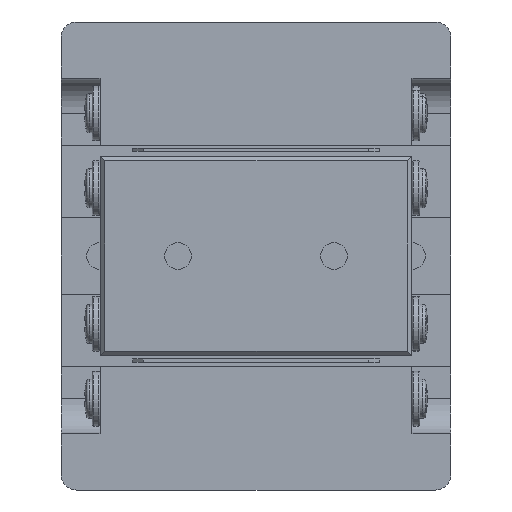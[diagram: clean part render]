
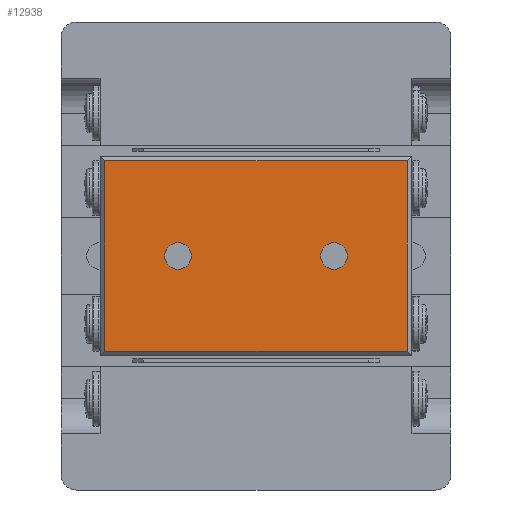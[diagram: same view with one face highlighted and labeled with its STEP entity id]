
A CAD part, front view. The second image highlights one B-rep face of the part: STEP entity #12938.
In plain terms, the highlighted planar face has unit normal (0, -1, 0).
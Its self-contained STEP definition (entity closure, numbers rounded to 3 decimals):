
#209 = VERTEX_POINT ( 'NONE', #20293 ) ;
#494 = DIRECTION ( 'NONE',  ( 0., 0., 1. ) ) ;
#591 = AXIS2_PLACEMENT_3D ( 'NONE', #18216, #6690, #26337 ) ;
#612 = CIRCLE ( 'NONE', #26769, 0.85 ) ;
#1199 = DIRECTION ( 'NONE',  ( 0., 0., -1. ) ) ;
#2118 = ORIENTED_EDGE ( 'NONE', *, *, #4098, .T. ) ;
#2517 = DIRECTION ( 'NONE',  ( 1., 0., 0. ) ) ;
#2547 = DIRECTION ( 'NONE',  ( 0., 0., 1. ) ) ;
#2780 = ORIENTED_EDGE ( 'NONE', *, *, #21110, .T. ) ;
#3473 = EDGE_CURVE ( 'NONE', #24392, #12936, #17196, .T. ) ;
#3593 = VERTEX_POINT ( 'NONE', #31042 ) ;
#3729 = DIRECTION ( 'NONE',  ( 0., 0., 1. ) ) ;
#4098 = EDGE_CURVE ( 'NONE', #26933, #4189, #9251, .T. ) ;
#4189 = VERTEX_POINT ( 'NONE', #29432 ) ;
#4304 = CARTESIAN_POINT ( 'NONE',  ( -5.159, -2.182, -0.85 ) ) ;
#4320 = LINE ( 'NONE', #9170, #22842 ) ;
#4650 = VECTOR ( 'NONE', #2517, 1000. ) ;
#6028 = CARTESIAN_POINT ( 'NONE',  ( -9.859, -2.182, 6.4 ) ) ;
#6186 = CARTESIAN_POINT ( 'NONE',  ( -5.159, -2.182, 0. ) ) ;
#6690 = DIRECTION ( 'NONE',  ( 0., 1., 0. ) ) ;
#6818 = VERTEX_POINT ( 'NONE', #4304 ) ;
#7999 = DIRECTION ( 'NONE',  ( 0., 0., 1. ) ) ;
#8123 = FACE_OUTER_BOUND ( 'NONE', #12701, .T. ) ;
#8642 = DIRECTION ( 'NONE',  ( 0., 0., 1. ) ) ;
#9170 = CARTESIAN_POINT ( 'NONE',  ( -10.159, -2.182, 6.1 ) ) ;
#9251 = LINE ( 'NONE', #6028, #27760 ) ;
#10440 = CARTESIAN_POINT ( 'NONE',  ( -10.159, -2.182, 6.4 ) ) ;
#11079 = CARTESIAN_POINT ( 'NONE',  ( 4.841, -2.182, 0. ) ) ;
#11338 = CARTESIAN_POINT ( 'NONE',  ( -5.159, -2.182, 0. ) ) ;
#11626 = EDGE_LOOP ( 'NONE', ( #24883, #22026 ) ) ;
#12701 = EDGE_LOOP ( 'NONE', ( #21609, #21704, #2118, #18883 ) ) ;
#12936 = VERTEX_POINT ( 'NONE', #17113 ) ;
#12938 = ADVANCED_FACE ( 'NONE', ( #8123, #14534, #21000 ), #13310, .F. ) ;
#13310 = PLANE ( 'NONE',  #19969 ) ;
#14534 = FACE_BOUND ( 'NONE', #14633, .T. ) ;
#14633 = EDGE_LOOP ( 'NONE', ( #2780, #23163 ) ) ;
#14947 = CARTESIAN_POINT ( 'NONE',  ( 9.541, -2.182, 6.4 ) ) ;
#15014 = VECTOR ( 'NONE', #494, 1000. ) ;
#16990 = CARTESIAN_POINT ( 'NONE',  ( -10.159, -2.182, -6.1 ) ) ;
#17113 = CARTESIAN_POINT ( 'NONE',  ( 4.841, -2.182, 0.85 ) ) ;
#17196 = CIRCLE ( 'NONE', #591, 0.85 ) ;
#18216 = CARTESIAN_POINT ( 'NONE',  ( 4.841, -2.182, 0. ) ) ;
#18883 = ORIENTED_EDGE ( 'NONE', *, *, #31381, .T. ) ;
#19969 = AXIS2_PLACEMENT_3D ( 'NONE', #10440, #30322, #3729 ) ;
#20293 = CARTESIAN_POINT ( 'NONE',  ( -5.159, -2.182, 0.85 ) ) ;
#21000 = FACE_BOUND ( 'NONE', #11626, .T. ) ;
#21110 = EDGE_CURVE ( 'NONE', #12936, #24392, #25150, .T. ) ;
#21164 = EDGE_CURVE ( 'NONE', #209, #6818, #612, .T. ) ;
#21609 = ORIENTED_EDGE ( 'NONE', *, *, #28047, .T. ) ;
#21704 = ORIENTED_EDGE ( 'NONE', *, *, #22101, .T. ) ;
#21907 = AXIS2_PLACEMENT_3D ( 'NONE', #11079, #22884, #2547 ) ;
#22026 = ORIENTED_EDGE ( 'NONE', *, *, #24219, .T. ) ;
#22101 = EDGE_CURVE ( 'NONE', #3593, #26933, #4320, .T. ) ;
#22842 = VECTOR ( 'NONE', #31010, 1000. ) ;
#22884 = DIRECTION ( 'NONE',  ( 0., 1., 0. ) ) ;
#23104 = DIRECTION ( 'NONE',  ( 0., 1., 0. ) ) ;
#23163 = ORIENTED_EDGE ( 'NONE', *, *, #3473, .T. ) ;
#23180 = LINE ( 'NONE', #16990, #4650 ) ;
#24219 = EDGE_CURVE ( 'NONE', #6818, #209, #24980, .T. ) ;
#24392 = VERTEX_POINT ( 'NONE', #26365 ) ;
#24693 = CARTESIAN_POINT ( 'NONE',  ( -9.859, -2.182, 6.1 ) ) ;
#24883 = ORIENTED_EDGE ( 'NONE', *, *, #21164, .T. ) ;
#24980 = CIRCLE ( 'NONE', #26815, 0.85 ) ;
#25150 = CIRCLE ( 'NONE', #21907, 0.85 ) ;
#26337 = DIRECTION ( 'NONE',  ( 0., 0., 1. ) ) ;
#26365 = CARTESIAN_POINT ( 'NONE',  ( 4.841, -2.182, -0.85 ) ) ;
#26370 = VERTEX_POINT ( 'NONE', #26446 ) ;
#26446 = CARTESIAN_POINT ( 'NONE',  ( 9.541, -2.182, -6.1 ) ) ;
#26769 = AXIS2_PLACEMENT_3D ( 'NONE', #11338, #29495, #7999 ) ;
#26815 = AXIS2_PLACEMENT_3D ( 'NONE', #6186, #23104, #8642 ) ;
#26933 = VERTEX_POINT ( 'NONE', #24693 ) ;
#27137 = LINE ( 'NONE', #14947, #15014 ) ;
#27760 = VECTOR ( 'NONE', #1199, 1000. ) ;
#28047 = EDGE_CURVE ( 'NONE', #26370, #3593, #27137, .T. ) ;
#29432 = CARTESIAN_POINT ( 'NONE',  ( -9.859, -2.182, -6.1 ) ) ;
#29495 = DIRECTION ( 'NONE',  ( 0., 1., 0. ) ) ;
#30322 = DIRECTION ( 'NONE',  ( 0., 1., 0. ) ) ;
#31010 = DIRECTION ( 'NONE',  ( -1., 0., 0. ) ) ;
#31042 = CARTESIAN_POINT ( 'NONE',  ( 9.541, -2.182, 6.1 ) ) ;
#31381 = EDGE_CURVE ( 'NONE', #4189, #26370, #23180, .T. ) ;
